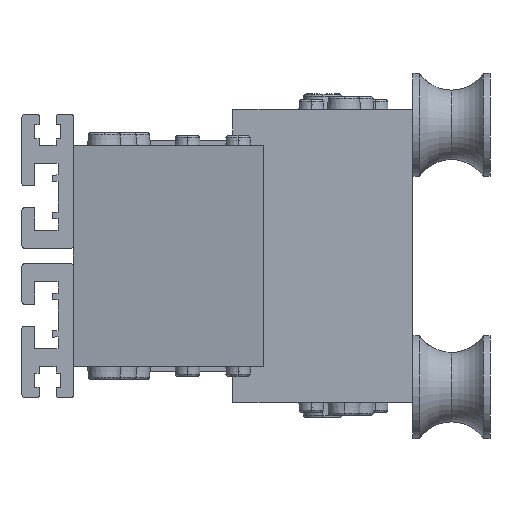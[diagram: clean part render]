
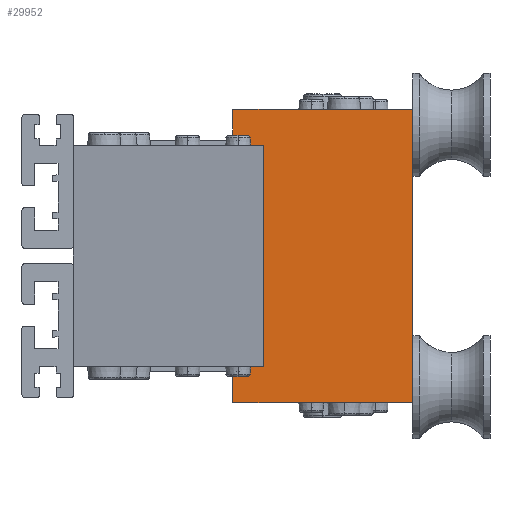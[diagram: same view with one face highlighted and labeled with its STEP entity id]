
A CAD part, left-side view. The second image highlights one B-rep face of the part: STEP entity #29952.
In plain terms, the highlighted planar face has unit normal (-1, 0, 0).
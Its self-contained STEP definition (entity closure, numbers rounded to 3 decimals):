
#128 = ORIENTED_EDGE ( 'NONE', *, *, #1088, .F. ) ;
#1088 = EDGE_CURVE ( 'NONE', #23054, #12282, #6220, .T. ) ;
#1361 = DIRECTION ( 'NONE',  ( 0., 0., 1. ) ) ;
#1569 = VECTOR ( 'NONE', #3997, 1000. ) ;
#3880 = LINE ( 'NONE', #15459, #11086 ) ;
#3997 = DIRECTION ( 'NONE',  ( 0., 1., 0. ) ) ;
#4060 = ORIENTED_EDGE ( 'NONE', *, *, #27348, .F. ) ;
#5594 = CARTESIAN_POINT ( 'NONE',  ( -222.632, 54.437, 1310.296 ) ) ;
#5752 = DIRECTION ( 'NONE',  ( 0., 1., 0. ) ) ;
#6100 = VECTOR ( 'NONE', #22360, 1000. ) ;
#6220 = LINE ( 'NONE', #29795, #14940 ) ;
#7034 = CARTESIAN_POINT ( 'NONE',  ( -222.632, 54.437, 857. ) ) ;
#7566 = CARTESIAN_POINT ( 'NONE',  ( -222.632, 54.437, 743. ) ) ;
#8064 = PLANE ( 'NONE',  #18768 ) ;
#8283 = VERTEX_POINT ( 'NONE', #7034 ) ;
#8545 = ORIENTED_EDGE ( 'NONE', *, *, #15620, .T. ) ;
#9188 = EDGE_CURVE ( 'NONE', #11508, #23054, #12764, .T. ) ;
#9613 = VECTOR ( 'NONE', #14669, 1000. ) ;
#9876 = LINE ( 'NONE', #10184, #9613 ) ;
#9889 = EDGE_LOOP ( 'NONE', ( #128, #20887, #26843, #8545, #14527, #4060, #21379, #15045 ) ) ;
#10054 = EDGE_CURVE ( 'NONE', #12672, #11508, #10223, .T. ) ;
#10184 = CARTESIAN_POINT ( 'NONE',  ( -222.632, 54.437, 1310.296 ) ) ;
#10223 = LINE ( 'NONE', #19627, #1569 ) ;
#10725 = LINE ( 'NONE', #29656, #17940 ) ;
#11086 = VECTOR ( 'NONE', #20094, 1000. ) ;
#11108 = CARTESIAN_POINT ( 'NONE',  ( -222.632, 54.437, 843. ) ) ;
#11508 = VERTEX_POINT ( 'NONE', #7566 ) ;
#11870 = DIRECTION ( 'NONE',  ( 0., -1., 0. ) ) ;
#11887 = CARTESIAN_POINT ( 'NONE',  ( -222.632, 42.437, 843. ) ) ;
#12282 = VERTEX_POINT ( 'NONE', #26104 ) ;
#12322 = VECTOR ( 'NONE', #1361, 1000. ) ;
#12478 = CARTESIAN_POINT ( 'NONE',  ( -222.632, -15.563, 743. ) ) ;
#12672 = VERTEX_POINT ( 'NONE', #12478 ) ;
#12764 = LINE ( 'NONE', #18008, #12322 ) ;
#12956 = LINE ( 'NONE', #11108, #6100 ) ;
#14527 = ORIENTED_EDGE ( 'NONE', *, *, #30176, .F. ) ;
#14669 = DIRECTION ( 'NONE',  ( 0., 0., 1. ) ) ;
#14843 = VERTEX_POINT ( 'NONE', #21774 ) ;
#14940 = VECTOR ( 'NONE', #11870, 1000. ) ;
#15000 = EDGE_CURVE ( 'NONE', #12282, #15090, #3880, .T. ) ;
#15045 = ORIENTED_EDGE ( 'NONE', *, *, #15000, .F. ) ;
#15090 = VERTEX_POINT ( 'NONE', #11887 ) ;
#15459 = CARTESIAN_POINT ( 'NONE',  ( -222.632, 42.437, 1310.296 ) ) ;
#15620 = EDGE_CURVE ( 'NONE', #12672, #26325, #10725, .T. ) ;
#16522 = DIRECTION ( 'NONE',  ( 0., -1., 0. ) ) ;
#17940 = VECTOR ( 'NONE', #22590, 1000. ) ;
#18008 = CARTESIAN_POINT ( 'NONE',  ( -222.632, 54.437, 1310.296 ) ) ;
#18593 = CARTESIAN_POINT ( 'NONE',  ( -222.632, -15.563, 857. ) ) ;
#18768 = AXIS2_PLACEMENT_3D ( 'NONE', #5594, #20255, #5752 ) ;
#19627 = CARTESIAN_POINT ( 'NONE',  ( -222.632, 19.437, 743. ) ) ;
#20094 = DIRECTION ( 'NONE',  ( 0., 0., 1. ) ) ;
#20255 = DIRECTION ( 'NONE',  ( 1., 0., 0. ) ) ;
#20887 = ORIENTED_EDGE ( 'NONE', *, *, #9188, .F. ) ;
#21297 = LINE ( 'NONE', #26063, #22225 ) ;
#21379 = ORIENTED_EDGE ( 'NONE', *, *, #27510, .F. ) ;
#21774 = CARTESIAN_POINT ( 'NONE',  ( -222.632, 54.437, 843. ) ) ;
#22225 = VECTOR ( 'NONE', #16522, 1000. ) ;
#22248 = FACE_OUTER_BOUND ( 'NONE', #9889, .T. ) ;
#22360 = DIRECTION ( 'NONE',  ( 0., 1., 0. ) ) ;
#22590 = DIRECTION ( 'NONE',  ( 0., 0., 1. ) ) ;
#23054 = VERTEX_POINT ( 'NONE', #28780 ) ;
#26063 = CARTESIAN_POINT ( 'NONE',  ( -222.632, 19.437, 857. ) ) ;
#26104 = CARTESIAN_POINT ( 'NONE',  ( -222.632, 42.437, 757. ) ) ;
#26325 = VERTEX_POINT ( 'NONE', #18593 ) ;
#26843 = ORIENTED_EDGE ( 'NONE', *, *, #10054, .F. ) ;
#27348 = EDGE_CURVE ( 'NONE', #14843, #8283, #9876, .T. ) ;
#27510 = EDGE_CURVE ( 'NONE', #15090, #14843, #12956, .T. ) ;
#28780 = CARTESIAN_POINT ( 'NONE',  ( -222.632, 54.437, 757. ) ) ;
#29656 = CARTESIAN_POINT ( 'NONE',  ( -222.632, -15.563, 1310.296 ) ) ;
#29795 = CARTESIAN_POINT ( 'NONE',  ( -222.632, 54.437, 757. ) ) ;
#29952 = ADVANCED_FACE ( 'NONE', ( #22248 ), #8064, .F. ) ;
#30176 = EDGE_CURVE ( 'NONE', #8283, #26325, #21297, .T. ) ;
